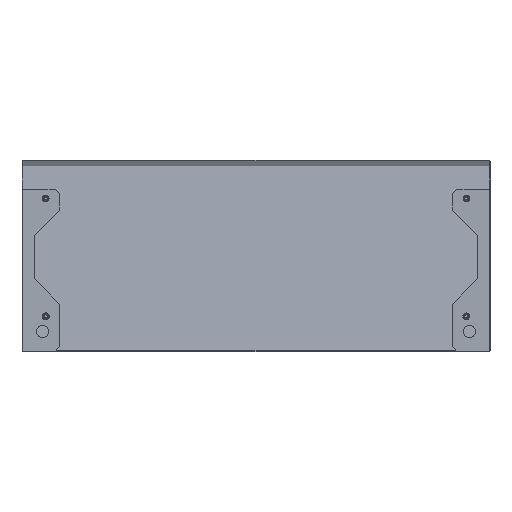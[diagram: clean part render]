
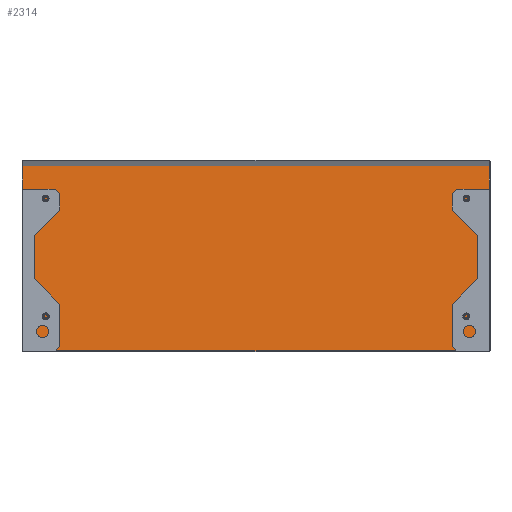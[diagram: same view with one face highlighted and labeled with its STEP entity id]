
A CAD part, front view. The second image highlights one B-rep face of the part: STEP entity #2314.
In plain terms, the highlighted planar face has unit normal (0, -0.997, 0.081).
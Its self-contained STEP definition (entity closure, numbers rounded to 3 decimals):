
#316 = EDGE_CURVE ( 'NONE', #3339, #3341, #4051, .T. ) ;
#317 = EDGE_CURVE ( 'NONE', #3341, #3340, #4054, .T. ) ;
#318 = EDGE_CURVE ( 'NONE', #3338, #3339, #4057, .T. ) ;
#319 = EDGE_CURVE ( 'NONE', #3340, #3338, #4060, .T. ) ;
#457 = AXIS2_PLACEMENT_3D ( 'NONE', #1063, #1064, #1065 ) ;
#460 = FACE_OUTER_BOUND ( 'NONE', #3583, .T. ) ;
#679 = VECTOR ( 'NONE', #4062, 1000. ) ;
#683 = VECTOR ( 'NONE', #4059, 1000. ) ;
#684 = VECTOR ( 'NONE', #4056, 1000. ) ;
#685 = VECTOR ( 'NONE', #4053, 1000. ) ;
#1062 = PLANE ( 'NONE',  #457 ) ;
#1063 = CARTESIAN_POINT ( 'NONE',  ( -1010., 57.375, 403.026 ) ) ;
#1064 = DIRECTION ( 'NONE',  ( 0., 0.997, -0.081 ) ) ;
#1065 = DIRECTION ( 'NONE',  ( 0., 0.081, 0.997 ) ) ;
#1313 = CARTESIAN_POINT ( 'NONE',  ( -2., 57.232, 401.262 ) ) ;
#1314 = CARTESIAN_POINT ( 'NONE',  ( -2., 24.953, 1.952 ) ) ;
#1315 = CARTESIAN_POINT ( 'NONE',  ( -1008., 57.232, 401.262 ) ) ;
#1316 = CARTESIAN_POINT ( 'NONE',  ( -1008., 24.953, 1.952 ) ) ;
#1787 = ORIENTED_EDGE ( 'NONE', *, *, #319, .F. ) ;
#1788 = ORIENTED_EDGE ( 'NONE', *, *, #316, .F. ) ;
#1789 = ORIENTED_EDGE ( 'NONE', *, *, #318, .F. ) ;
#1790 = ORIENTED_EDGE ( 'NONE', *, *, #317, .F. ) ;
#2314 = ADVANCED_FACE ( 'NONE', ( #460 ), #1062, .F. ) ;
#3338 = VERTEX_POINT ( 'NONE', #1313 ) ;
#3339 = VERTEX_POINT ( 'NONE', #1314 ) ;
#3340 = VERTEX_POINT ( 'NONE', #1315 ) ;
#3341 = VERTEX_POINT ( 'NONE', #1316 ) ;
#3583 = EDGE_LOOP ( 'NONE', ( #1790, #1788, #1789, #1787 ) ) ;
#4051 = LINE ( 'NONE', #4052, #685 ) ;
#4052 = CARTESIAN_POINT ( 'NONE',  ( -1010., 24.953, 1.952 ) ) ;
#4053 = DIRECTION ( 'NONE',  ( -1., 0., 0. ) ) ;
#4054 = LINE ( 'NONE', #4055, #684 ) ;
#4055 = CARTESIAN_POINT ( 'NONE',  ( -1008., 57.375, 403.026 ) ) ;
#4056 = DIRECTION ( 'NONE',  ( 0., 0.081, 0.997 ) ) ;
#4057 = LINE ( 'NONE', #4058, #683 ) ;
#4058 = CARTESIAN_POINT ( 'NONE',  ( -2., 57.375, 403.026 ) ) ;
#4059 = DIRECTION ( 'NONE',  ( 0., -0.081, -0.997 ) ) ;
#4060 = LINE ( 'NONE', #4061, #679 ) ;
#4061 = CARTESIAN_POINT ( 'NONE',  ( -1010., 57.232, 401.262 ) ) ;
#4062 = DIRECTION ( 'NONE',  ( 1., 0., 0. ) ) ;
